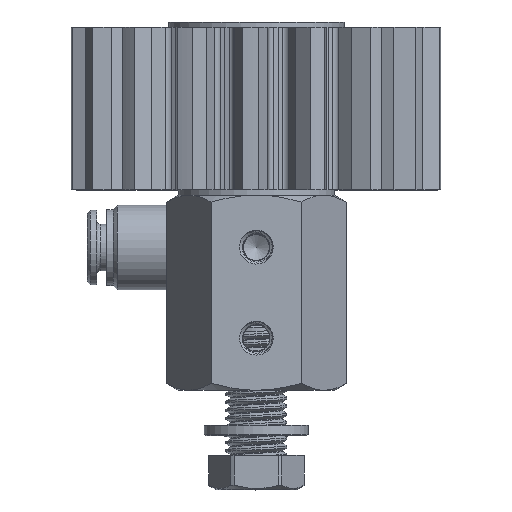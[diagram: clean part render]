
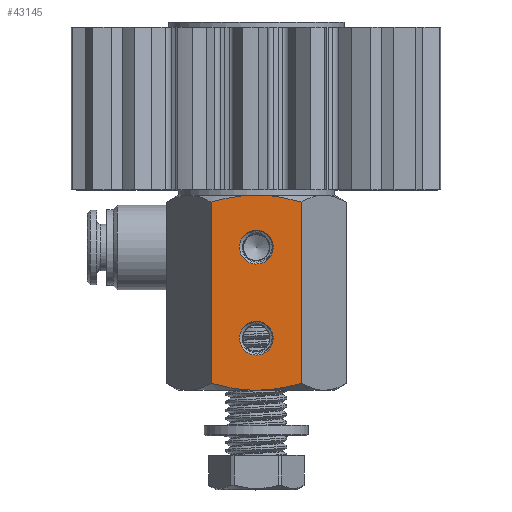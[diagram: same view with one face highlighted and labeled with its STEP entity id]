
A CAD part, top view. The second image highlights one B-rep face of the part: STEP entity #43145.
In plain terms, the highlighted planar face has unit normal (0, 0, 1).
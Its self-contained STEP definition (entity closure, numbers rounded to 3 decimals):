
#464 = CARTESIAN_POINT ( 'NONE',  ( -5.801, 29.254, 12. ) ) ;
#761 = CARTESIAN_POINT ( 'NONE',  ( -2.354, 0.103, 12. ) ) ;
#863 = VERTEX_POINT ( 'NONE', #31011 ) ;
#1355 = CARTESIAN_POINT ( 'NONE',  ( -6.928, 28.928, 12. ) ) ;
#2376 = EDGE_CURVE ( 'NONE', #39978, #8874, #14909, .T. ) ;
#3058 = CARTESIAN_POINT ( 'NONE',  ( 6.928, 28.928, 12. ) ) ;
#3439 = FACE_BOUND ( 'NONE', #30572, .T. ) ;
#3860 = CARTESIAN_POINT ( 'NONE',  ( -2.933, 29.803, 12. ) ) ;
#3917 = DIRECTION ( 'NONE',  ( 0., 0., -1. ) ) ;
#3958 = CARTESIAN_POINT ( 'NONE',  ( 0., 0., 12. ) ) ;
#4236 = CARTESIAN_POINT ( 'NONE',  ( -6.928, 28.928, 12. ) ) ;
#4515 = CARTESIAN_POINT ( 'NONE',  ( -1.183, 29.974, 12. ) ) ;
#4734 = CARTESIAN_POINT ( 'NONE',  ( -0.593, 30., 12. ) ) ;
#5605 = CIRCLE ( 'NONE', #31546, 2.6 ) ;
#6427 = DIRECTION ( 'NONE',  ( 1., 0., 0. ) ) ;
#6789 = VERTEX_POINT ( 'NONE', #4236 ) ;
#7669 = EDGE_CURVE ( 'NONE', #37590, #37590, #12247, .T. ) ;
#7995 = CARTESIAN_POINT ( 'NONE',  ( 6.928, 1.072, 12. ) ) ;
#8129 = DIRECTION ( 'NONE',  ( 0., -1., 0. ) ) ;
#8213 = CARTESIAN_POINT ( 'NONE',  ( 5.801, 0.746, 12. ) ) ;
#8645 = AXIS2_PLACEMENT_3D ( 'NONE', #41264, #3917, #10439 ) ;
#8874 = VERTEX_POINT ( 'NONE', #43441 ) ;
#10439 = DIRECTION ( 'NONE',  ( -1., 0., 0. ) ) ;
#11139 = CARTESIAN_POINT ( 'NONE',  ( 2.933, 0.197, 12. ) ) ;
#11401 = LINE ( 'NONE', #32147, #43002 ) ;
#11597 = CARTESIAN_POINT ( 'NONE',  ( 2.353, 0.124, 12. ) ) ;
#11709 = CARTESIAN_POINT ( 'NONE',  ( 0., 30., 12. ) ) ;
#12247 = CIRCLE ( 'NONE', #8645, 2.6 ) ;
#13176 = DIRECTION ( 'NONE',  ( 0., 0., 1. ) ) ;
#13225 = EDGE_LOOP ( 'NONE', ( #35691, #32651, #31589, #41000, #44535, #15995 ) ) ;
#14444 = CARTESIAN_POINT ( 'NONE',  ( 2.354, 29.897, 12. ) ) ;
#14512 = CARTESIAN_POINT ( 'NONE',  ( -1.186, 0., 12. ) ) ;
#14887 = CARTESIAN_POINT ( 'NONE',  ( -4.663, 29.523, 12. ) ) ;
#14909 = LINE ( 'NONE', #43006, #27362 ) ;
#15102 = VERTEX_POINT ( 'NONE', #15421 ) ;
#15421 = CARTESIAN_POINT ( 'NONE',  ( -6.928, 1.072, 12. ) ) ;
#15762 = CARTESIAN_POINT ( 'NONE',  ( 0., 30., 12. ) ) ;
#15995 = ORIENTED_EDGE ( 'NONE', *, *, #2376, .F. ) ;
#17113 = VERTEX_POINT ( 'NONE', #24983 ) ;
#17242 = CARTESIAN_POINT ( 'NONE',  ( -4.661, 0.477, 12. ) ) ;
#17673 = CARTESIAN_POINT ( 'NONE',  ( -5.8, 0.746, 12. ) ) ;
#18043 = CARTESIAN_POINT ( 'NONE',  ( 1.186, 30., 12. ) ) ;
#18711 = CARTESIAN_POINT ( 'NONE',  ( 4.661, 29.523, 12. ) ) ;
#20027 = EDGE_CURVE ( 'NONE', #39978, #33438, #28161, .T. ) ;
#21073 = CARTESIAN_POINT ( 'NONE',  ( 4.663, 0.477, 12. ) ) ;
#21390 = AXIS2_PLACEMENT_3D ( 'NONE', #33043, #43345, #39956 ) ;
#23680 = B_SPLINE_CURVE_WITH_KNOTS ( 'NONE', 3,
 ( #31845, #17673, #17242, #761, #14512, #34592 ),
 .UNSPECIFIED., .F., .F.,
 ( 4, 2, 4 ),
 ( 0.015, 0.019, 0.022 ),
 .UNSPECIFIED. ) ;
#23981 = FACE_BOUND ( 'NONE', #33318, .T. ) ;
#24983 = CARTESIAN_POINT ( 'NONE',  ( 2.6, 8., 12. ) ) ;
#25485 = CARTESIAN_POINT ( 'NONE',  ( 6.928, 28.928, 12. ) ) ;
#26070 = EDGE_CURVE ( 'NONE', #33438, #6789, #26673, .T. ) ;
#26600 = CARTESIAN_POINT ( 'NONE',  ( -2.6, 22., 12. ) ) ;
#26673 = B_SPLINE_CURVE_WITH_KNOTS ( 'NONE', 3,
 ( #11709, #4734, #4515, #28398, #3860, #14887, #464, #1355 ),
 .UNSPECIFIED., .F., .F.,
 ( 4, 2, 2, 4 ),
 ( 0.022, 0.024, 0.026, 0.029 ),
 .UNSPECIFIED. ) ;
#27362 = VECTOR ( 'NONE', #8129, 1000. ) ;
#28161 = B_SPLINE_CURVE_WITH_KNOTS ( 'NONE', 3,
 ( #25485, #28393, #18711, #14444, #18043, #41859 ),
 .UNSPECIFIED., .F., .F.,
 ( 4, 2, 4 ),
 ( 0.015, 0.019, 0.022 ),
 .UNSPECIFIED. ) ;
#28393 = CARTESIAN_POINT ( 'NONE',  ( 5.8, 29.254, 12. ) ) ;
#28398 = CARTESIAN_POINT ( 'NONE',  ( -2.353, 29.876, 12. ) ) ;
#28416 = B_SPLINE_CURVE_WITH_KNOTS ( 'NONE', 3,
 ( #3958, #42420, #32332, #11597, #11139, #21073, #8213, #7995 ),
 .UNSPECIFIED., .F., .F.,
 ( 4, 2, 2, 4 ),
 ( 0.022, 0.024, 0.026, 0.029 ),
 .UNSPECIFIED. ) ;
#30572 = EDGE_LOOP ( 'NONE', ( #31022 ) ) ;
#31011 = CARTESIAN_POINT ( 'NONE',  ( 0., 0., 12. ) ) ;
#31022 = ORIENTED_EDGE ( 'NONE', *, *, #7669, .T. ) ;
#31546 = AXIS2_PLACEMENT_3D ( 'NONE', #43997, #13176, #6427 ) ;
#31573 = EDGE_CURVE ( 'NONE', #17113, #17113, #5605, .T. ) ;
#31589 = ORIENTED_EDGE ( 'NONE', *, *, #32207, .T. ) ;
#31845 = CARTESIAN_POINT ( 'NONE',  ( -6.928, 1.072, 12. ) ) ;
#32147 = CARTESIAN_POINT ( 'NONE',  ( -6.928, 30., 12. ) ) ;
#32207 = EDGE_CURVE ( 'NONE', #6789, #15102, #11401, .T. ) ;
#32332 = CARTESIAN_POINT ( 'NONE',  ( 1.183, 0.026, 12. ) ) ;
#32585 = DIRECTION ( 'NONE',  ( 0., -1., 0. ) ) ;
#32651 = ORIENTED_EDGE ( 'NONE', *, *, #26070, .T. ) ;
#33043 = CARTESIAN_POINT ( 'NONE',  ( 6.928, 30., 12. ) ) ;
#33318 = EDGE_LOOP ( 'NONE', ( #35935 ) ) ;
#33438 = VERTEX_POINT ( 'NONE', #15762 ) ;
#34592 = CARTESIAN_POINT ( 'NONE',  ( 0., 0., 12. ) ) ;
#35691 = ORIENTED_EDGE ( 'NONE', *, *, #20027, .T. ) ;
#35935 = ORIENTED_EDGE ( 'NONE', *, *, #31573, .F. ) ;
#37590 = VERTEX_POINT ( 'NONE', #26600 ) ;
#39956 = DIRECTION ( 'NONE',  ( 1., 0., 0. ) ) ;
#39978 = VERTEX_POINT ( 'NONE', #3058 ) ;
#41000 = ORIENTED_EDGE ( 'NONE', *, *, #42388, .T. ) ;
#41264 = CARTESIAN_POINT ( 'NONE',  ( 0., 22., 12. ) ) ;
#41859 = CARTESIAN_POINT ( 'NONE',  ( 0., 30., 12. ) ) ;
#42388 = EDGE_CURVE ( 'NONE', #15102, #863, #23680, .T. ) ;
#42420 = CARTESIAN_POINT ( 'NONE',  ( 0.593, 0., 12. ) ) ;
#43002 = VECTOR ( 'NONE', #32585, 1000. ) ;
#43006 = CARTESIAN_POINT ( 'NONE',  ( 6.928, 30., 12. ) ) ;
#43122 = PLANE ( 'NONE',  #21390 ) ;
#43145 = ADVANCED_FACE ( 'NONE', ( #23981, #3439, #43565 ), #43122, .T. ) ;
#43345 = DIRECTION ( 'NONE',  ( 0., 0., 1. ) ) ;
#43441 = CARTESIAN_POINT ( 'NONE',  ( 6.928, 1.072, 12. ) ) ;
#43565 = FACE_OUTER_BOUND ( 'NONE', #13225, .T. ) ;
#43997 = CARTESIAN_POINT ( 'NONE',  ( 0., 8., 12. ) ) ;
#44232 = EDGE_CURVE ( 'NONE', #863, #8874, #28416, .T. ) ;
#44535 = ORIENTED_EDGE ( 'NONE', *, *, #44232, .T. ) ;
